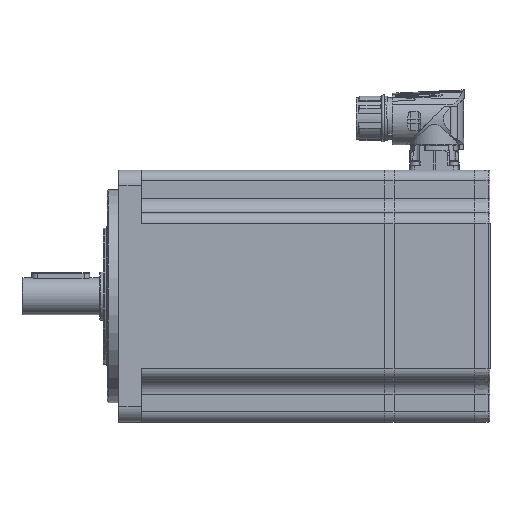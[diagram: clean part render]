
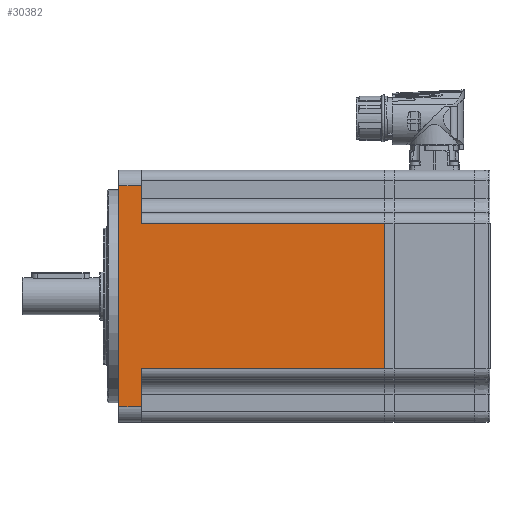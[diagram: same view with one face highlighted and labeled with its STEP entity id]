
A CAD part, left-side view. The second image highlights one B-rep face of the part: STEP entity #30382.
In plain terms, the highlighted planar face has unit normal (-1, 0, 0) as drawn and (1, 0, 0) by its records, which use the part's own axes.
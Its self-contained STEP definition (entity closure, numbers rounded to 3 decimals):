
#1193=LINE('',#65879,#3114);
#1233=LINE('',#66845,#3154);
#1244=LINE('',#66918,#3165);
#1271=LINE('',#66977,#3192);
#1272=LINE('',#66978,#3193);
#1273=LINE('',#66980,#3194);
#1274=LINE('',#66982,#3195);
#1275=LINE('',#66983,#3196);
#3114=VECTOR('',#51101,1000.);
#3154=VECTOR('',#51571,1000.);
#3165=VECTOR('',#51644,1000.);
#3192=VECTOR('',#51707,1000.);
#3193=VECTOR('',#51708,1000.);
#3194=VECTOR('',#51709,1000.);
#3195=VECTOR('',#51710,1000.);
#3196=VECTOR('',#51711,1000.);
#5923=PLANE('',#45710);
#11723=ORIENTED_EDGE('',*,*,#17647,.F.);
#11724=ORIENTED_EDGE('',*,*,#17955,.T.);
#11725=ORIENTED_EDGE('',*,*,#17890,.F.);
#11726=ORIENTED_EDGE('',*,*,#17956,.T.);
#11727=ORIENTED_EDGE('',*,*,#17957,.F.);
#11728=ORIENTED_EDGE('',*,*,#17958,.T.);
#11729=ORIENTED_EDGE('',*,*,#17922,.F.);
#11730=ORIENTED_EDGE('',*,*,#17959,.T.);
#17647=EDGE_CURVE('',#21347,#21348,#1193,.T.);
#17890=EDGE_CURVE('',#21500,#21501,#1233,.T.);
#17922=EDGE_CURVE('',#21532,#21533,#1244,.T.);
#17955=EDGE_CURVE('',#21347,#21501,#1271,.T.);
#17956=EDGE_CURVE('',#21500,#21546,#1272,.T.);
#17957=EDGE_CURVE('',#21547,#21546,#1273,.T.);
#17958=EDGE_CURVE('',#21547,#21533,#1274,.F.);
#17959=EDGE_CURVE('',#21532,#21348,#1275,.T.);
#21347=VERTEX_POINT('',#65878);
#21348=VERTEX_POINT('',#65880);
#21500=VERTEX_POINT('',#66844);
#21501=VERTEX_POINT('',#66846);
#21532=VERTEX_POINT('',#66919);
#21533=VERTEX_POINT('',#66920);
#21546=VERTEX_POINT('',#66979);
#21547=VERTEX_POINT('',#66981);
#25666=EDGE_LOOP('',(#11723,#11724,#11725,#11726,#11727,#11728,#11729,#11730));
#28179=FACE_BOUND('',#25666,.T.);
#30382=ADVANCED_FACE('',(#28179),#5923,.T.);
#45710=AXIS2_PLACEMENT_3D('',#66976,#51705,#51706);
#51101=DIRECTION('',(0.,0.,-1.));
#51571=DIRECTION('',(0.,0.,-1.));
#51644=DIRECTION('',(0.,0.,-1.));
#51705=DIRECTION('',(1.,0.,0.));
#51706=DIRECTION('',(0.,1.,0.));
#51707=DIRECTION('',(0.,-1.,0.));
#51708=DIRECTION('',(0.,-1.,0.));
#51709=DIRECTION('',(0.,0.,1.));
#51710=DIRECTION('',(0.,-1.,0.));
#51711=DIRECTION('',(0.,1.,0.));
#65878=CARTESIAN_POINT('',(65.,138.2,37.5));
#65879=CARTESIAN_POINT('',(65.,138.2,-65.));
#65880=CARTESIAN_POINT('',(65.,138.2,-37.5));
#66844=CARTESIAN_POINT('',(65.,12.7,57.));
#66845=CARTESIAN_POINT('',(65.,12.7,-65.));
#66846=CARTESIAN_POINT('',(65.,12.7,37.5));
#66918=CARTESIAN_POINT('',(65.,12.7,-65.));
#66919=CARTESIAN_POINT('',(65.,12.7,-37.5));
#66920=CARTESIAN_POINT('',(65.,12.7,-57.));
#66976=CARTESIAN_POINT('',(65.,317.858,-65.));
#66977=CARTESIAN_POINT('',(65.,317.858,37.5));
#66978=CARTESIAN_POINT('',(65.,317.858,57.));
#66979=CARTESIAN_POINT('',(65.,1.2,57.));
#66980=CARTESIAN_POINT('',(65.,1.2,-65.));
#66981=CARTESIAN_POINT('',(65.,1.2,-57.));
#66982=CARTESIAN_POINT('',(65.,317.858,-57.));
#66983=CARTESIAN_POINT('',(65.,317.858,-37.5));
